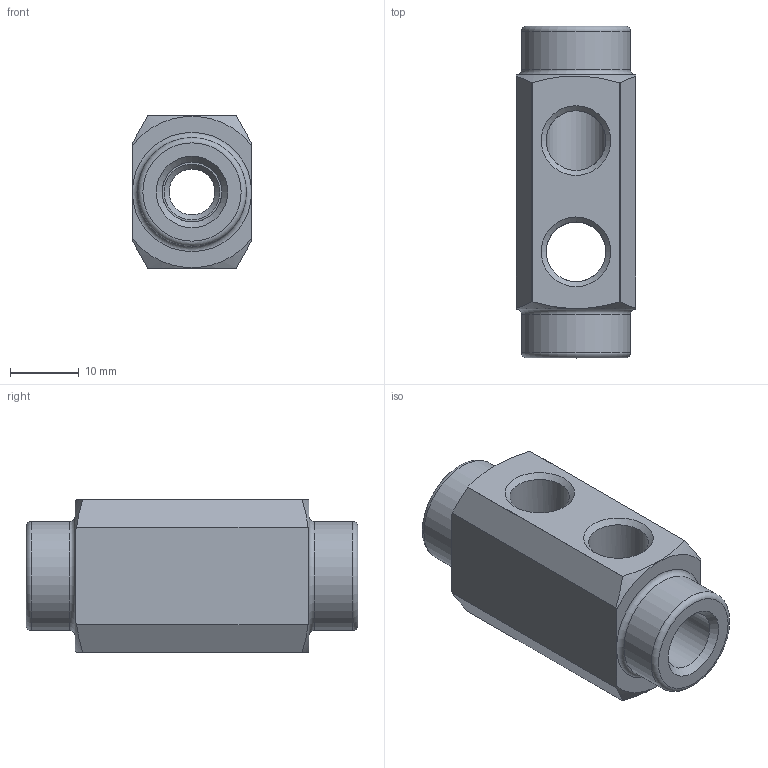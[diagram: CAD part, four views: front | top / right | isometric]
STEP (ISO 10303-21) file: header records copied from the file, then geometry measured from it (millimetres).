
FILE_DESCRIPTION(/* description */ (''),/* implementation_level */ '2;1');
FILE_NAME(/* name */ 'C:/Users/drich/Desktop/186H-RL v3.step',/* time_stamp */ '2020-01-10T21:54:30-06:00',/* author */ (''),/* organization */ (''),/* preprocessor_version */ 'ST-DEVELOPER v18',/* originating_system */ 'Autodesk Translation Framework v8.12.0.6',/* authorisation */ '');
FILE_SCHEMA (('AUTOMOTIVE_DESIGN { 1 0 10303 214 3 1 1 }'));
Length unit declared in the file: inch
Products named in the file (2): 186H-RL; 186H-RL_1
Assembly tree (1 placements, depth 2):
  186H-RL
    186H-RL_1
Bounding box: 17.42 x 48.41 x 22.23 mm (x, y, z)
Volume: 11299.8 mm3; surface area: 5238.2 mm2
Topology: 1 solids, 1 shells, 46 faces, 129 edges, 87 vertices
Faces by surface type: cone 17, plane 13, cylinder 12, torus 4
Full cylindrical faces by diameter (mm): 6.697 x1, 8.707 x5, 15.875 x2
Entity records: 1607 total; most frequent: CARTESIAN_POINT 338, DIRECTION 272, ORIENTED_EDGE 258, EDGE_CURVE 129, AXIS2_PLACEMENT_3D 120, VERTEX_POINT 87, CIRCLE 63, EDGE_LOOP 56
